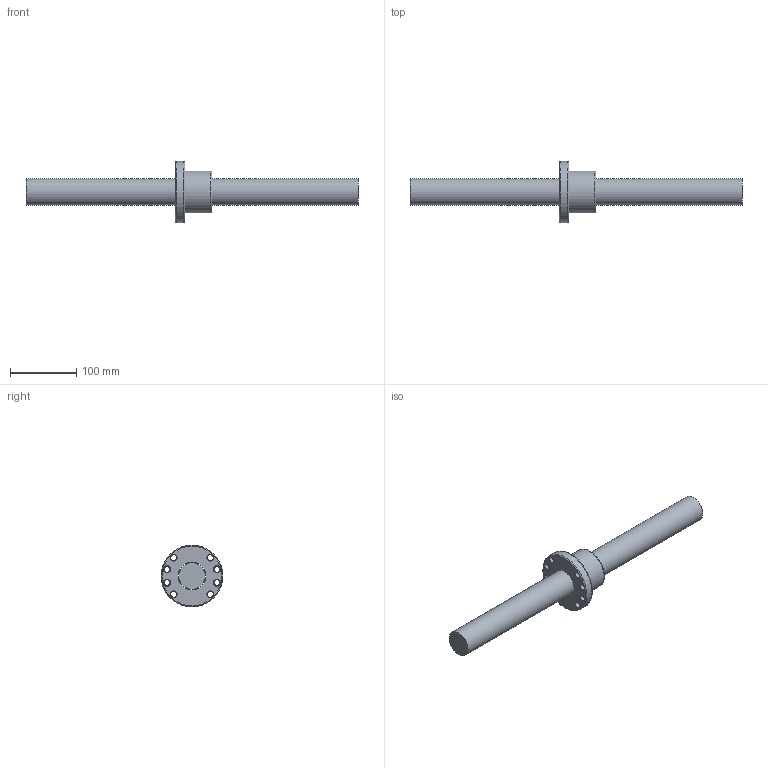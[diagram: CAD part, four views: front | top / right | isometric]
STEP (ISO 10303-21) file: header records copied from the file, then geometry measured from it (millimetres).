
FILE_DESCRIPTION (( 'STEP AP203' ), '1' );
FILE_NAME ('SFNU04005N-4.step', '2024-05-10T07:00:38', ( '' ), ( '' ), 'SwSTEP 2.0', 'SolidWorks 2022', '' );
FILE_SCHEMA (( 'CONFIG_CONTROL_DESIGN' ));
Length unit declared in the file: millimetre
Products named in the file (1): SFNU04005N-4
Bounding box: 500 x 93 x 93 mm (x, y, z)
Volume: 766369.7 mm3; surface area: 97510.8 mm2
Topology: 2 solids, 2 shells, 49 faces, 121 edges, 77 vertices
Faces by surface type: cylinder 19, cone 17, plane 6, bspline 4, torus 3
Full cylindrical faces by diameter (mm): 4 x1, 7 x5, 9 x8, 40 x1, 42.1 x1, 63 x1, 93 x1
Entity records: 2832 total; most frequent: CARTESIAN_POINT 1911, DIRECTION 176, ORIENTED_EDGE 118, EDGE_LOOP 100, AXIS2_PLACEMENT_3D 86, FACE_OUTER_BOUND 62, EDGE_CURVE 59, VERTEX_POINT 55
